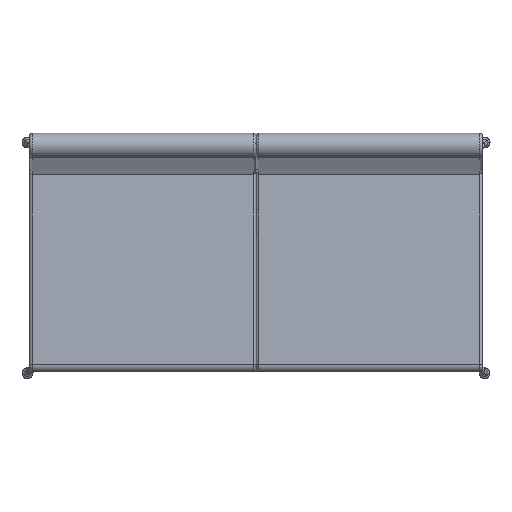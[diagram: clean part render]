
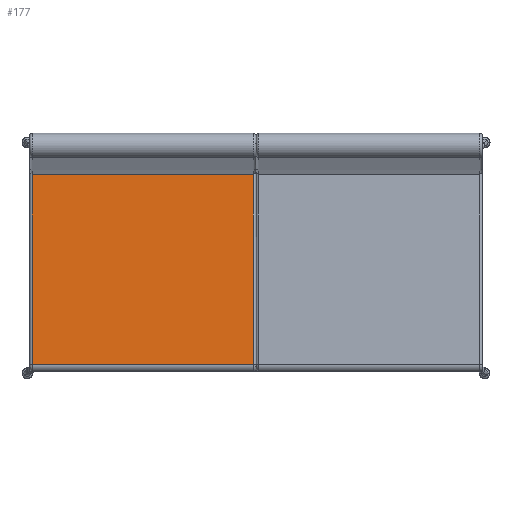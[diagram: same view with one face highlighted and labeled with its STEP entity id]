
A CAD part, top view. The second image highlights one B-rep face of the part: STEP entity #177.
In plain terms, the highlighted free-form (B-spline) face has degree [3, 1] with [4, 2] control points.
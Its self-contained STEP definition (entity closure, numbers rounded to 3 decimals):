
#177=ADVANCED_FACE('',(#363),#2594,.T.);
#363=FACE_OUTER_BOUND('',#553,.T.);
#553=EDGE_LOOP('',(#1131,#1132,#1133,#1134));
#1131=ORIENTED_EDGE('',*,*,#1739,.T.);
#1132=ORIENTED_EDGE('',*,*,#1702,.T.);
#1133=ORIENTED_EDGE('',*,*,#1740,.F.);
#1134=ORIENTED_EDGE('',*,*,#1701,.F.);
#1701=EDGE_CURVE('',#2398,#2399,#2090,.T.);
#1702=EDGE_CURVE('',#2400,#2401,#2091,.T.);
#1739=EDGE_CURVE('',#2398,#2400,#2122,.T.);
#1740=EDGE_CURVE('',#2399,#2401,#2123,.T.);
#2090=(
BOUNDED_CURVE()
B_SPLINE_CURVE(1,(#5986,#5987),.UNSPECIFIED.,.F.,.F.)
B_SPLINE_CURVE_WITH_KNOTS((2,2),(6.,504.),.UNSPECIFIED.)
CURVE()
GEOMETRIC_REPRESENTATION_ITEM()
RATIONAL_B_SPLINE_CURVE((1.,1.))
REPRESENTATION_ITEM('')
);
#2091=(
BOUNDED_CURVE()
B_SPLINE_CURVE(1,(#5988,#5989),.UNSPECIFIED.,.F.,.F.)
B_SPLINE_CURVE_WITH_KNOTS((2,2),(6.,504.),.UNSPECIFIED.)
CURVE()
GEOMETRIC_REPRESENTATION_ITEM()
RATIONAL_B_SPLINE_CURVE((1.,1.))
REPRESENTATION_ITEM('')
);
#2122=(
BOUNDED_CURVE()
B_SPLINE_CURVE(1,(#6121,#6122),.UNSPECIFIED.,.F.,.F.)
B_SPLINE_CURVE_WITH_KNOTS((2,2),(0.,432.642),
 .UNSPECIFIED.)
CURVE()
GEOMETRIC_REPRESENTATION_ITEM()
RATIONAL_B_SPLINE_CURVE((1.,1.))
REPRESENTATION_ITEM('')
);
#2123=(
BOUNDED_CURVE()
B_SPLINE_CURVE(1,(#6123,#6124),.UNSPECIFIED.,.F.,.F.)
B_SPLINE_CURVE_WITH_KNOTS((2,2),(0.,432.642),
 .UNSPECIFIED.)
CURVE()
GEOMETRIC_REPRESENTATION_ITEM()
RATIONAL_B_SPLINE_CURVE((1.,1.))
REPRESENTATION_ITEM('')
);
#2398=VERTEX_POINT('',#5906);
#2399=VERTEX_POINT('',#5907);
#2400=VERTEX_POINT('',#5908);
#2401=VERTEX_POINT('',#5909);
#2594=(
BOUNDED_SURFACE()
B_SPLINE_SURFACE(3,1,((#5516,#5517),(#5518,#5519),(#5520,#5521),(#5522,
#5523)),.UNSPECIFIED.,.F.,.F.,.F.)
B_SPLINE_SURFACE_WITH_KNOTS((4,4),(2,2),(-1381.837,-949.195),
(0.,510.),.UNSPECIFIED.)
GEOMETRIC_REPRESENTATION_ITEM()
RATIONAL_B_SPLINE_SURFACE(((1.,1.),(1.,1.),(1.,1.),(1.,1.)))
REPRESENTATION_ITEM('')
SURFACE()
);
#5516=CARTESIAN_POINT('',(-510.,190.787,428.017));
#5517=CARTESIAN_POINT('',(0.,190.787,428.017));
#5518=CARTESIAN_POINT('',(-510.,46.739,434.942));
#5519=CARTESIAN_POINT('',(0.,46.739,434.942));
#5520=CARTESIAN_POINT('',(-510.,-97.308,441.867));
#5521=CARTESIAN_POINT('',(0.,-97.308,441.867));
#5522=CARTESIAN_POINT('',(-510.,-241.356,448.793));
#5523=CARTESIAN_POINT('',(0.,-241.356,448.793));
#5906=CARTESIAN_POINT('',(-504.,190.787,428.017));
#5907=CARTESIAN_POINT('',(-6.,190.787,428.017));
#5908=CARTESIAN_POINT('',(-504.,-241.356,448.793));
#5909=CARTESIAN_POINT('',(-6.,-241.356,448.793));
#5986=CARTESIAN_POINT('',(-504.,190.787,428.017));
#5987=CARTESIAN_POINT('',(-6.,190.787,428.017));
#5988=CARTESIAN_POINT('',(-504.,-241.356,448.793));
#5989=CARTESIAN_POINT('',(-6.,-241.356,448.793));
#6121=CARTESIAN_POINT('',(-504.,190.787,428.017));
#6122=CARTESIAN_POINT('',(-504.,-241.356,448.793));
#6123=CARTESIAN_POINT('',(-6.,190.787,428.017));
#6124=CARTESIAN_POINT('',(-6.,-241.356,448.793));
